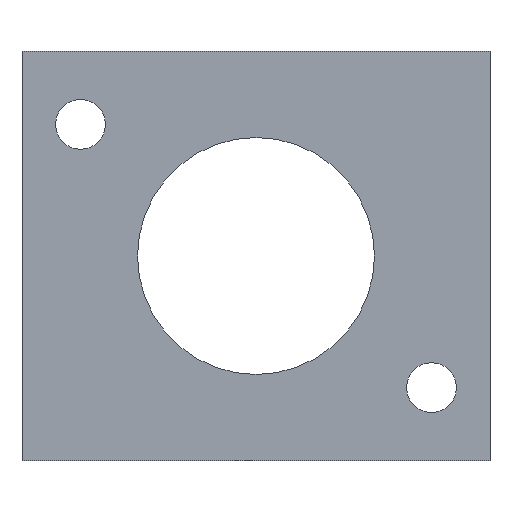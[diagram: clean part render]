
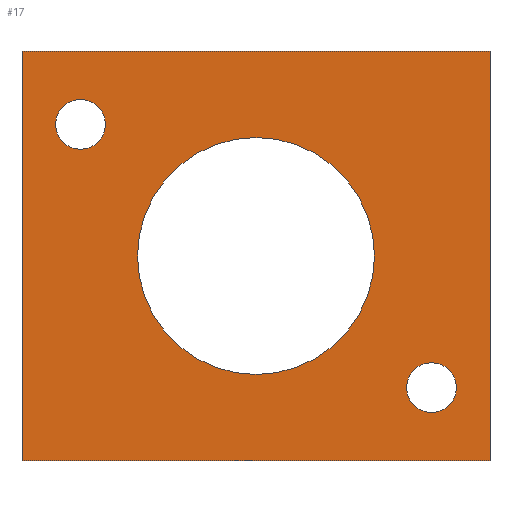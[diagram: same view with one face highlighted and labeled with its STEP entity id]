
A CAD part, left-side view. The second image highlights one B-rep face of the part: STEP entity #17.
In plain terms, the highlighted planar face has unit normal (-1, 0, 0).
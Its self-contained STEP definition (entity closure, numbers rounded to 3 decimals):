
#17 = ADVANCED_FACE('',(#18,#52,#63,#74),#85,.F.);
#18 = FACE_BOUND('',#19,.F.);
#19 = EDGE_LOOP('',(#20,#30,#38,#46));
#20 = ORIENTED_EDGE('',*,*,#21,.F.);
#21 = EDGE_CURVE('',#22,#24,#26,.T.);
#22 = VERTEX_POINT('',#23);
#23 = CARTESIAN_POINT('',(0.,-16.,-14.));
#24 = VERTEX_POINT('',#25);
#25 = CARTESIAN_POINT('',(0.,-16.,14.));
#26 = LINE('',#27,#28);
#27 = CARTESIAN_POINT('',(0.,-16.,-14.));
#28 = VECTOR('',#29,1.);
#29 = DIRECTION('',(0.,0.,1.));
#30 = ORIENTED_EDGE('',*,*,#31,.T.);
#31 = EDGE_CURVE('',#22,#32,#34,.T.);
#32 = VERTEX_POINT('',#33);
#33 = CARTESIAN_POINT('',(0.,16.,-14.));
#34 = LINE('',#35,#36);
#35 = CARTESIAN_POINT('',(0.,-16.,-14.));
#36 = VECTOR('',#37,1.);
#37 = DIRECTION('',(-0.,1.,0.));
#38 = ORIENTED_EDGE('',*,*,#39,.T.);
#39 = EDGE_CURVE('',#32,#40,#42,.T.);
#40 = VERTEX_POINT('',#41);
#41 = CARTESIAN_POINT('',(0.,16.,14.));
#42 = LINE('',#43,#44);
#43 = CARTESIAN_POINT('',(0.,16.,-14.));
#44 = VECTOR('',#45,1.);
#45 = DIRECTION('',(0.,0.,1.));
#46 = ORIENTED_EDGE('',*,*,#47,.F.);
#47 = EDGE_CURVE('',#24,#40,#48,.T.);
#48 = LINE('',#49,#50);
#49 = CARTESIAN_POINT('',(0.,-16.,14.));
#50 = VECTOR('',#51,1.);
#51 = DIRECTION('',(-0.,1.,0.));
#52 = FACE_BOUND('',#53,.F.);
#53 = EDGE_LOOP('',(#54));
#54 = ORIENTED_EDGE('',*,*,#55,.F.);
#55 = EDGE_CURVE('',#56,#56,#58,.T.);
#56 = VERTEX_POINT('',#57);
#57 = CARTESIAN_POINT('',(0.,12.,10.7));
#58 = CIRCLE('',#59,1.7);
#59 = AXIS2_PLACEMENT_3D('',#60,#61,#62);
#60 = CARTESIAN_POINT('',(0.,12.,9.));
#61 = DIRECTION('',(1.,0.,0.));
#62 = DIRECTION('',(-0.,0.,1.));
#63 = FACE_BOUND('',#64,.F.);
#64 = EDGE_LOOP('',(#65));
#65 = ORIENTED_EDGE('',*,*,#66,.F.);
#66 = EDGE_CURVE('',#67,#67,#69,.T.);
#67 = VERTEX_POINT('',#68);
#68 = CARTESIAN_POINT('',(0.,-12.,-7.3));
#69 = CIRCLE('',#70,1.7);
#70 = AXIS2_PLACEMENT_3D('',#71,#72,#73);
#71 = CARTESIAN_POINT('',(0.,-12.,-9.));
#72 = DIRECTION('',(1.,0.,0.));
#73 = DIRECTION('',(-0.,0.,1.));
#74 = FACE_BOUND('',#75,.F.);
#75 = EDGE_LOOP('',(#76));
#76 = ORIENTED_EDGE('',*,*,#77,.F.);
#77 = EDGE_CURVE('',#78,#78,#80,.T.);
#78 = VERTEX_POINT('',#79);
#79 = CARTESIAN_POINT('',(0.,0.,8.1));
#80 = CIRCLE('',#81,8.1);
#81 = AXIS2_PLACEMENT_3D('',#82,#83,#84);
#82 = CARTESIAN_POINT('',(0.,0.,0.));
#83 = DIRECTION('',(1.,0.,0.));
#84 = DIRECTION('',(-0.,0.,1.));
#85 = PLANE('',#86);
#86 = AXIS2_PLACEMENT_3D('',#87,#88,#89);
#87 = CARTESIAN_POINT('',(0.,-16.,-14.));
#88 = DIRECTION('',(1.,0.,-0.));
#89 = DIRECTION('',(0.,0.,1.));
